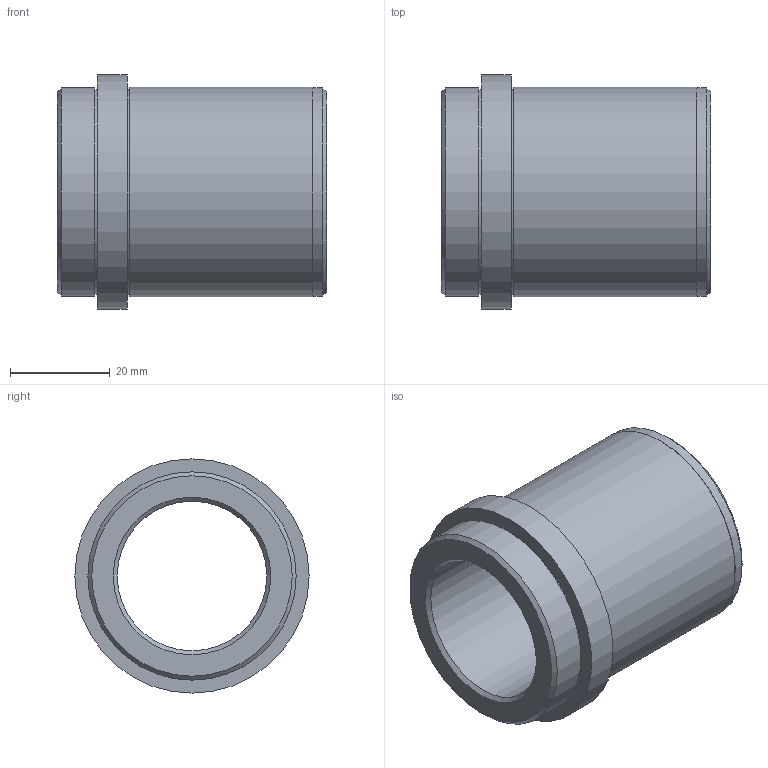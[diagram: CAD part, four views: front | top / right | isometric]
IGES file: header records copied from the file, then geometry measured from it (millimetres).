
Global section: file name: BG06.030046.ipt; native system: Autodesk Inventor 2021; preprocessor: unknown; author: SM; date: 20211221.174131; units: millimetre
Bounding box: 54 x 47 x 47 mm (x, y, z)
Volume: 38395.4 mm3; surface area: 14378.3 mm2
Topology: 1 solids, 1 shells, 18 faces, 31 edges, 20 vertices
Faces by surface type: plane 7, cylinder 6, revolution 3, cone 2
Full cylindrical faces by diameter (mm): 41 x2, 41.8 x2, 42 x1, 47 x1
